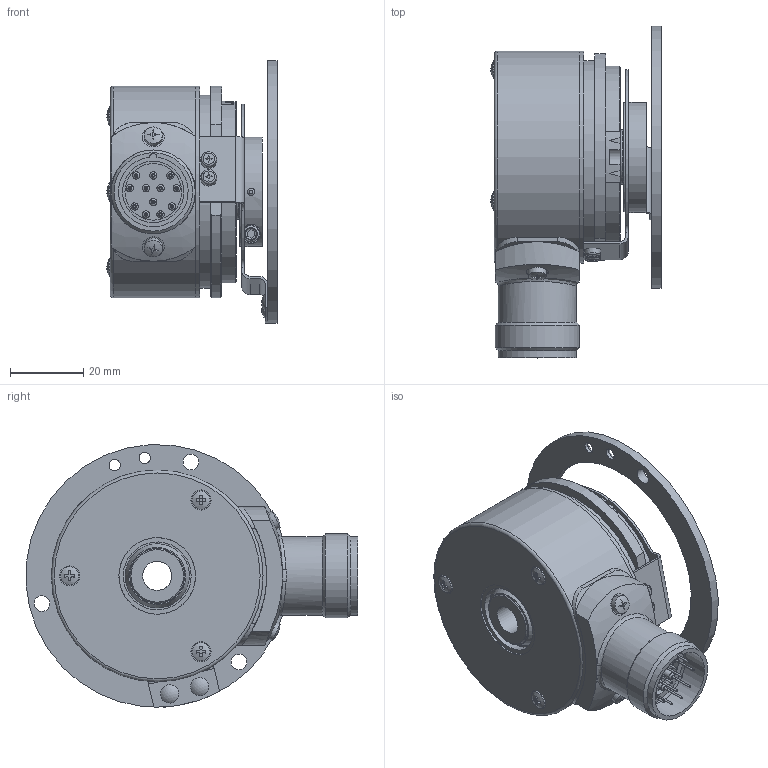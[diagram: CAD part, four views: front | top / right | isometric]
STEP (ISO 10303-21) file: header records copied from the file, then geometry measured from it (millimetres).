
FILE_DESCRIPTION (( 'STEP AP203' ), '1' );
FILE_NAME ('8.5825.34X2.XXXXX.STEP', '2013-05-13T12:49:57', ( 'Hodot' ), ( '' ), 'SwSTEP 2.0', 'SolidWorks 2012', '' );
FILE_SCHEMA (( 'CONFIG_CONTROL_DESIGN' ));
Length unit declared in the file: millimetre
Products named in the file (1): 8.5825.34X2.XXXXX
Bounding box: 46.58 x 90.93 x 71.92 mm (x, y, z)
Volume: 63847 mm3; surface area: 52418.2 mm2
Topology: 38 solids, 38 shells, 740 faces, 1593 edges, 1010 vertices
Faces by surface type: plane 323, cylinder 268, cone 91, torus 35, sphere 19, bspline 4
Full cylindrical faces by diameter (mm): 0.5 x12, 0.6 x12, 1.1 x12, 1.2 x12, 1.4 x12, 2 x38, 2.05 x13, 2.5 x25, 2.6 x5, 2.7 x1, 3.1 x6, 3.15 x2, 3.2 x2, 4.3 x3, 4.5 x1, 4.7 x1, 5 x5, 5.2 x1, 5.5 x3, 6 x2, 8 x1, 10.5 x1, 15 x2, 16 x1, 16.1 x1, 16.247 x1, 16.5 x2, 16.8 x2, 17 x1, 17.5 x1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
Entity records: 19876 total; most frequent: CARTESIAN_POINT 4943, DIRECTION 3227, ORIENTED_EDGE 2402, AXIS2_PLACEMENT_3D 1389, EDGE_LOOP 1246, EDGE_CURVE 1201, FACE_OUTER_BOUND 974, VERTEX_POINT 953
